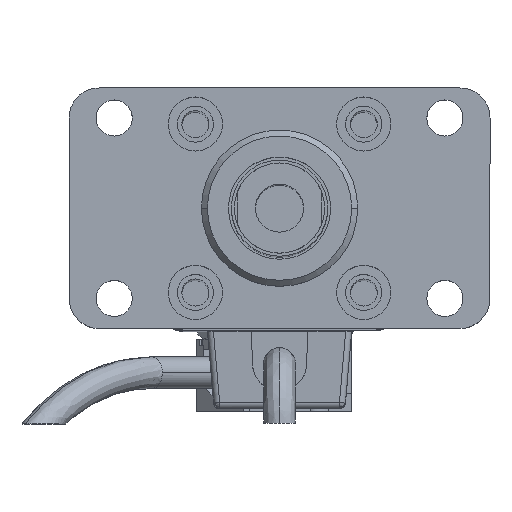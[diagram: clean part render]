
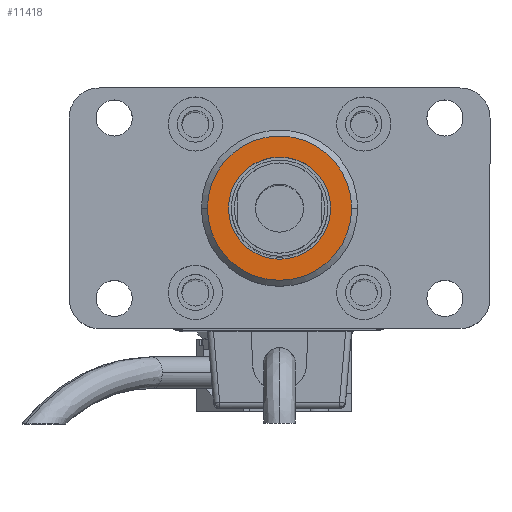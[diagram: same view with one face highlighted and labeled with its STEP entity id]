
A CAD part, top view. The second image highlights one B-rep face of the part: STEP entity #11418.
In plain terms, the highlighted planar face has unit normal (0, 0, 1) as drawn and (0, 0, -1) by its records, which use the part's own axes.
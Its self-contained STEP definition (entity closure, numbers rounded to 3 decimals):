
#549 = CIRCLE ( 'NONE', #14269, 12. ) ;
#1039 = DIRECTION ( 'NONE',  ( 0., 0., -1. ) ) ;
#1069 = ORIENTED_EDGE ( 'NONE', *, *, #20486, .T. ) ;
#1686 = DIRECTION ( 'NONE',  ( -1., 0., 0. ) ) ;
#1855 = CARTESIAN_POINT ( 'NONE',  ( 0., 0., -3. ) ) ;
#3472 = CIRCLE ( 'NONE', #21474, 12. ) ;
#3627 = DIRECTION ( 'NONE',  ( 0., 0., -1. ) ) ;
#4194 = DIRECTION ( 'NONE',  ( 0., 0., -1. ) ) ;
#6008 = DIRECTION ( 'NONE',  ( -1., 0., 0. ) ) ;
#6168 = CIRCLE ( 'NONE', #23843, 8.5 ) ;
#7968 = CARTESIAN_POINT ( 'NONE',  ( 0., 0., -3. ) ) ;
#8526 = CARTESIAN_POINT ( 'NONE',  ( 8.5, 0., -3. ) ) ;
#9562 = DIRECTION ( 'NONE',  ( -1., 0., 0. ) ) ;
#10246 = DIRECTION ( 'NONE',  ( -1., 0., 0. ) ) ;
#10996 = DIRECTION ( 'NONE',  ( -1., 0., 0. ) ) ;
#11418 = ADVANCED_FACE ( 'NONE', ( #15389, #28391 ), #26363, .T. ) ;
#11513 = AXIS2_PLACEMENT_3D ( 'NONE', #17601, #4194, #10996 ) ;
#12695 = DIRECTION ( 'NONE',  ( 0., 0., -1. ) ) ;
#12708 = CARTESIAN_POINT ( 'NONE',  ( 0., 0., -3. ) ) ;
#14269 = AXIS2_PLACEMENT_3D ( 'NONE', #7968, #3627, #10246 ) ;
#14483 = CIRCLE ( 'NONE', #19105, 8.5 ) ;
#15095 = CARTESIAN_POINT ( 'NONE',  ( -8.5, 0., -3. ) ) ;
#15389 = FACE_OUTER_BOUND ( 'NONE', #24108, .T. ) ;
#15658 = EDGE_CURVE ( 'NONE', #20629, #22807, #14483, .T. ) ;
#15821 = EDGE_CURVE ( 'NONE', #26944, #26277, #3472, .T. ) ;
#17601 = CARTESIAN_POINT ( 'NONE',  ( 0., 0., -3. ) ) ;
#18941 = CARTESIAN_POINT ( 'NONE',  ( 12., 0., -3. ) ) ;
#19105 = AXIS2_PLACEMENT_3D ( 'NONE', #27241, #1039, #9562 ) ;
#20486 = EDGE_CURVE ( 'NONE', #26277, #26944, #549, .T. ) ;
#20629 = VERTEX_POINT ( 'NONE', #8526 ) ;
#21474 = AXIS2_PLACEMENT_3D ( 'NONE', #12708, #25695, #1686 ) ;
#21756 = EDGE_LOOP ( 'NONE', ( #26912, #24510 ) ) ;
#22807 = VERTEX_POINT ( 'NONE', #15095 ) ;
#23843 = AXIS2_PLACEMENT_3D ( 'NONE', #1855, #12695, #6008 ) ;
#24108 = EDGE_LOOP ( 'NONE', ( #1069, #24946 ) ) ;
#24510 = ORIENTED_EDGE ( 'NONE', *, *, #27472, .F. ) ;
#24946 = ORIENTED_EDGE ( 'NONE', *, *, #15821, .T. ) ;
#25695 = DIRECTION ( 'NONE',  ( 0., 0., -1. ) ) ;
#26277 = VERTEX_POINT ( 'NONE', #18941 ) ;
#26363 = PLANE ( 'NONE',  #11513 ) ;
#26912 = ORIENTED_EDGE ( 'NONE', *, *, #15658, .F. ) ;
#26944 = VERTEX_POINT ( 'NONE', #27734 ) ;
#27241 = CARTESIAN_POINT ( 'NONE',  ( 0., 0., -3. ) ) ;
#27472 = EDGE_CURVE ( 'NONE', #22807, #20629, #6168, .T. ) ;
#27734 = CARTESIAN_POINT ( 'NONE',  ( -12., 0., -3. ) ) ;
#28391 = FACE_BOUND ( 'NONE', #21756, .T. ) ;
